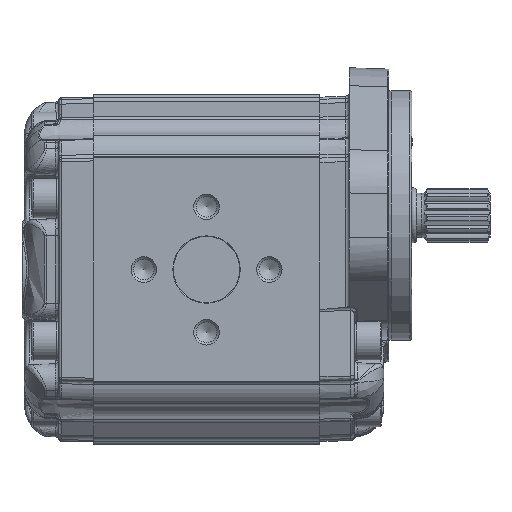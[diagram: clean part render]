
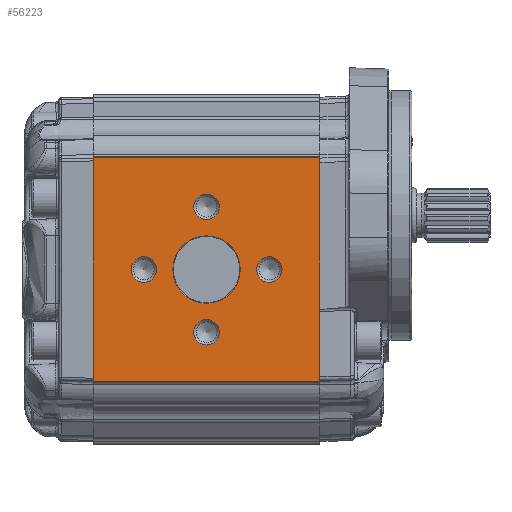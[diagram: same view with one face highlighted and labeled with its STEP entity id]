
A CAD part, left-side view. The second image highlights one B-rep face of the part: STEP entity #56223.
In plain terms, the highlighted planar face has unit normal (-1, 0, 0).
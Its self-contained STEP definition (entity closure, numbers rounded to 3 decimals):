
#6462=LINE('',#106768,#8096);
#6473=LINE('',#106853,#8107);
#6511=LINE('',#106961,#8145);
#6512=LINE('',#106962,#8146);
#8096=VECTOR('',#62852,1000.);
#8107=VECTOR('',#62927,1000.);
#8145=VECTOR('',#63053,1000.);
#8146=VECTOR('',#63054,1000.);
#14088=ORIENTED_EDGE('',*,*,#23699,.T.);
#14089=ORIENTED_EDGE('',*,*,#23700,.T.);
#14090=ORIENTED_EDGE('',*,*,#23701,.T.);
#14091=ORIENTED_EDGE('',*,*,#23702,.T.);
#14092=ORIENTED_EDGE('',*,*,#23703,.T.);
#14093=ORIENTED_EDGE('',*,*,#23603,.F.);
#14094=ORIENTED_EDGE('',*,*,#23704,.T.);
#14095=ORIENTED_EDGE('',*,*,#23645,.F.);
#14096=ORIENTED_EDGE('',*,*,#23705,.T.);
#23603=EDGE_CURVE('',#28737,#28738,#6462,.T.);
#23645=EDGE_CURVE('',#28779,#28780,#6473,.T.);
#23699=EDGE_CURVE('',#28801,#28801,#31582,.F.);
#23700=EDGE_CURVE('',#28802,#28802,#31583,.F.);
#23701=EDGE_CURVE('',#28803,#28803,#31584,.F.);
#23702=EDGE_CURVE('',#28804,#28804,#31585,.F.);
#23703=EDGE_CURVE('',#28805,#28805,#31586,.F.);
#23704=EDGE_CURVE('',#28737,#28780,#6511,.F.);
#23705=EDGE_CURVE('',#28779,#28738,#6512,.F.);
#28737=VERTEX_POINT('',#106767);
#28738=VERTEX_POINT('',#106769);
#28779=VERTEX_POINT('',#106852);
#28780=VERTEX_POINT('',#106854);
#28801=VERTEX_POINT('',#106952);
#28802=VERTEX_POINT('',#106954);
#28803=VERTEX_POINT('',#106956);
#28804=VERTEX_POINT('',#106958);
#28805=VERTEX_POINT('',#106960);
#31582=CIRCLE('',#58885,5.188);
#31583=CIRCLE('',#58886,5.188);
#31584=CIRCLE('',#58887,5.188);
#31585=CIRCLE('',#58888,5.188);
#31586=CIRCLE('',#58889,13.7);
#32925=EDGE_LOOP('',(#14088));
#32926=EDGE_LOOP('',(#14089));
#32927=EDGE_LOOP('',(#14090));
#32928=EDGE_LOOP('',(#14091));
#32929=EDGE_LOOP('',(#14092));
#32930=EDGE_LOOP('',(#14093,#14094,#14095,#14096));
#35658=FACE_BOUND('',#32925,.T.);
#35659=FACE_BOUND('',#32926,.T.);
#35660=FACE_BOUND('',#32927,.T.);
#35661=FACE_BOUND('',#32928,.T.);
#35662=FACE_BOUND('',#32929,.T.);
#35663=FACE_BOUND('',#32930,.T.);
#37474=PLANE('',#58884);
#56223=ADVANCED_FACE('',(#35658,#35659,#35660,#35661,#35662,#35663),#37474,
 .T.);
#58884=AXIS2_PLACEMENT_3D('',#106950,#63041,#63042);
#58885=AXIS2_PLACEMENT_3D('',#106951,#63043,#63044);
#58886=AXIS2_PLACEMENT_3D('',#106953,#63045,#63046);
#58887=AXIS2_PLACEMENT_3D('',#106955,#63047,#63048);
#58888=AXIS2_PLACEMENT_3D('',#106957,#63049,#63050);
#58889=AXIS2_PLACEMENT_3D('',#106959,#63051,#63052);
#62852=DIRECTION('',(0.,0.,1.));
#62927=DIRECTION('',(0.,0.,-1.));
#63041=DIRECTION('',(-1.,0.,0.));
#63042=DIRECTION('',(0.,0.,-1.));
#63043=DIRECTION('',(-1.,0.,0.));
#63044=DIRECTION('',(0.,0.,-1.));
#63045=DIRECTION('',(-1.,0.,0.));
#63046=DIRECTION('',(0.,0.,-1.));
#63047=DIRECTION('',(-1.,0.,0.));
#63048=DIRECTION('',(0.,0.,-1.));
#63049=DIRECTION('',(-1.,0.,0.));
#63050=DIRECTION('',(0.,0.,-1.));
#63051=DIRECTION('',(-1.,0.,0.));
#63052=DIRECTION('',(0.,0.,-1.));
#63053=DIRECTION('',(0.,1.,0.));
#63054=DIRECTION('',(0.,-1.,0.));
#106767=CARTESIAN_POINT('',(-57.5,92.,-45.5));
#106768=CARTESIAN_POINT('',(-57.5,92.,-84.819));
#106769=CARTESIAN_POINT('',(-57.5,92.,45.5));
#106852=CARTESIAN_POINT('',(-57.5,0.,45.5));
#106853=CARTESIAN_POINT('',(-57.5,0.,-44.978));
#106854=CARTESIAN_POINT('',(-57.5,0.,-45.5));
#106950=CARTESIAN_POINT('',(-57.5,-138.655,-84.819));
#106951=CARTESIAN_POINT('',(-57.5,46.,25.5));
#106952=CARTESIAN_POINT('',(-57.5,46.,20.312));
#106953=CARTESIAN_POINT('',(-57.5,71.5,0.));
#106954=CARTESIAN_POINT('',(-57.5,71.5,-5.188));
#106955=CARTESIAN_POINT('',(-57.5,46.,-25.5));
#106956=CARTESIAN_POINT('',(-57.5,46.,-30.688));
#106957=CARTESIAN_POINT('',(-57.5,20.5,0.));
#106958=CARTESIAN_POINT('',(-57.5,20.5,-5.188));
#106959=CARTESIAN_POINT('',(-57.5,46.,0.));
#106960=CARTESIAN_POINT('',(-57.5,46.,-13.7));
#106961=CARTESIAN_POINT('',(-57.5,-138.655,-45.5));
#106962=CARTESIAN_POINT('',(-57.5,-138.655,45.5));
